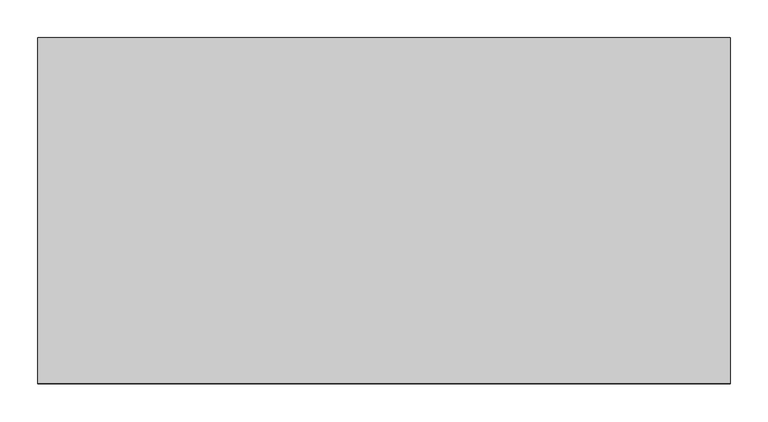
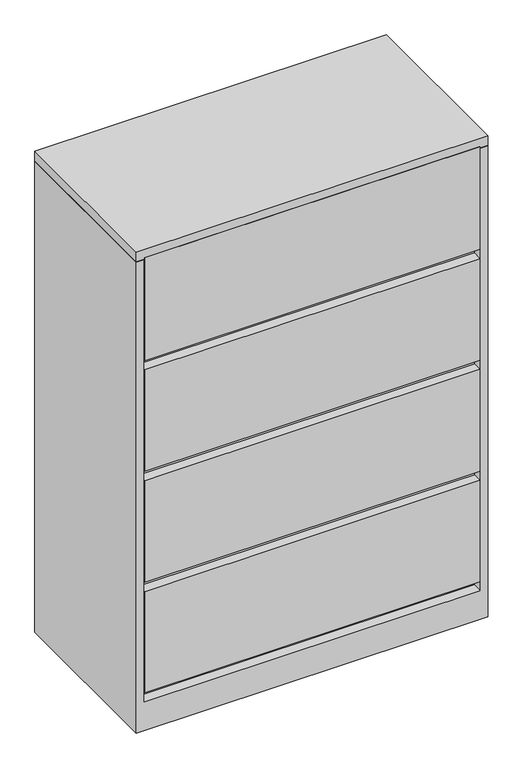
"""IFC4 building model written with IfcOpenShell, lengths in millimetres: furniture geometry, Steelcase - 900 Series - Storage - Lateral File With Roll Out Shelf - Flush Steel : 52H x 36W."""

import ifcopenshell
import ifcopenshell.guid

model = None  # the IFC model being written
_history = None  # IfcOwnerHistory: only IFC2X3 demands one
_inside = {}  # id of a spatial element -> (the spatial element, [elements in it])
_under = {}  # id of a project, library or spatial element -> (it, [spatial elements below it])
_declared = {}  # id of a project -> (the project, [libraries it declares])
_typed = {}  # id of a type object -> (the type object, [elements of that type])
_made_of = {}  # id of a material, layer set ... -> (it, [elements and type objects made of it])


def new_model(schema):
    """Start an empty IFC model of exactly this schema.

    Asked for "IFC4X3", IfcOpenShell would pick the latest addendum, in which some entities
    have other attributes; the version numbers below select the first issue.
    IFC2X3 requires an IfcOwnerHistory on every rooted entity: one is made here for all.
    """
    global model, _history
    if schema == "IFC4X3":
        model = ifcopenshell.file(schema_version=(4, 3, 0, 0))
    else:
        model = ifcopenshell.file(schema=schema)
    _inside.clear()
    _under.clear()
    _declared.clear()
    _typed.clear()
    _made_of.clear()
    _history = None
    if model.schema == "IFC2X3":
        org = make("IfcOrganization", Name="unknown")
        user = make(
            "IfcPersonAndOrganization",
            ThePerson=make("IfcPerson", FamilyName="unknown"),
            TheOrganization=org,
        )
        app = make(
            "IfcApplication",
            ApplicationDeveloper=org,
            Version="unknown",
            ApplicationFullName="unknown",
            ApplicationIdentifier="unknown",
        )
        _history = make(
            "IfcOwnerHistory",
            OwningUser=user,
            OwningApplication=app,
            ChangeAction="ADDED",
            CreationDate=0,
        )
    return model


def make(cls, **values):
    """One entity of the class cls with the attributes given. An attribute that is None is left unset."""
    return model.create_entity(
        cls, **{name: value for name, value in values.items() if value is not None}
    )


def rooted(cls, **values):
    """An entity with a GlobalId (a new one), such as an element, a storey or a relation."""
    return make(cls, GlobalId=ifcopenshell.guid.new(), OwnerHistory=_history, **values)


def si_unit(unit_type, name, prefix=None):
    """IfcSIUnit, for example si_unit("LENGTHUNIT", "METRE", prefix="MILLI")."""
    return make("IfcSIUnit", UnitType=unit_type, Prefix=prefix, Name=name)


def assignment(units):
    """IfcUnitAssignment: the units of a project."""
    return None if units is None else make("IfcUnitAssignment", Units=units)


def point(xyz):
    """IfcCartesianPoint."""
    return None if xyz is None else make("IfcCartesianPoint", Coordinates=xyz)


def direction(xyz):
    """IfcDirection."""
    return None if xyz is None else make("IfcDirection", DirectionRatios=xyz)


def frame(location, z_axis=None, x_axis=None):
    """IfcAxis2Placement3D, a coordinate frame: its origin and axes. An axis left out is left unset."""
    return make(
        "IfcAxis2Placement3D",
        Location=point(location),
        Axis=direction(z_axis),
        RefDirection=direction(x_axis),
    )


def origin():
    """The frame at (0, 0, 0) with its axes left unset."""
    return frame((0.0, 0.0, 0.0))


def place(relative_to, where):
    """IfcLocalPlacement: puts the frame where relative to a parent placement (None: the world)."""
    return make(
        "IfcLocalPlacement", PlacementRelTo=relative_to, RelativePlacement=where
    )


def context(
    kind, dimensions, precision=None, world=None, true_north=None, identifier=None
):
    """IfcGeometricRepresentationContext, for example the 3D "Model" context."""
    return make(
        "IfcGeometricRepresentationContext",
        ContextIdentifier=identifier,
        ContextType=kind,
        CoordinateSpaceDimension=dimensions,
        Precision=precision,
        WorldCoordinateSystem=world,
        TrueNorth=true_north,
    )


def project(units=None, contexts=None):
    """IfcProject with its units and contexts."""
    return rooted(
        "IfcProject",
        Name="project",
        RepresentationContexts=contexts,
        UnitsInContext=assignment(units),
    )


def spatial(cls, under=None, at=None, **own):
    """A site, building, storey or space (cls), placed at a placement, below another one or the project."""
    s = rooted(cls, ObjectPlacement=at, **own)
    if under is not None:
        _under.setdefault(under.id(), (under, []))[1].append(s)
    return s


def polyline(points):
    """IfcPolyline through the points."""
    return make("IfcPolyline", Points=[point(p) for p in points])


def outline(outer, holes=None, kind="AREA"):
    """IfcArbitraryClosedProfileDef: a profile drawn as a closed curve; with holes, ...WithVoids."""
    if holes is None:
        return make("IfcArbitraryClosedProfileDef", ProfileType=kind, OuterCurve=outer)
    return make(
        "IfcArbitraryProfileDefWithVoids",
        ProfileType=kind,
        OuterCurve=outer,
        InnerCurves=holes,
    )


def extrude(swept, where, along, depth):
    """IfcExtrudedAreaSolid: the profile swept, set in the frame where, extruded along a direction by depth."""
    return make(
        "IfcExtrudedAreaSolid",
        SweptArea=swept,
        Position=where,
        ExtrudedDirection=direction(along),
        Depth=depth,
    )


def faces_of(points, faces, orient=None, outer=None):
    """IfcFace entities. A face is a list of loops; a loop is a list of indices into points, from 0.

    orient and outer hold one flag for each loop. By default every Orientation is true, the
    first loop of a face is its IfcFaceOuterBound and the others are IfcFaceBound.
    """
    made = []
    for i, loops in enumerate(faces):
        bounds = []
        for j, loop in enumerate(loops):
            is_outer = j == 0 if outer is None else outer[i][j]
            bounds.append(
                make(
                    "IfcFaceOuterBound" if is_outer else "IfcFaceBound",
                    Bound=make("IfcPolyLoop", Polygon=[points[k] for k in loop]),
                    Orientation=True if orient is None else orient[i][j],
                )
            )
        made.append(make("IfcFace", Bounds=bounds))
    return made


def faceted_brep(points, faces, orient=None, outer=None, voids=None):
    """IfcFacetedBrep: a solid bounded by flat faces; with voids (closed shells), ...WithVoids."""
    shared = [point(p) for p in points]
    hull = make("IfcClosedShell", CfsFaces=faces_of(shared, faces, orient, outer))
    if voids is None:
        return make("IfcFacetedBrep", Outer=hull)
    return make(
        "IfcFacetedBrepWithVoids",
        Outer=hull,
        Voids=[
            make(cls, CfsFaces=faces_of(shared, fs, o, b)) for cls, fs, o, b in voids
        ],
    )


def shape(context_of_items, identifier, shape_type, items):
    """IfcShapeRepresentation: the items that make up one representation, for example the "Body"."""
    return make(
        "IfcShapeRepresentation",
        ContextOfItems=context_of_items,
        RepresentationIdentifier=identifier,
        RepresentationType=shape_type,
        Items=items,
    )


def source(mapping_origin, context_of_items, identifier, shape_type, items):
    """IfcRepresentationMap: a shape defined once, which mapped items show again and again."""
    return make(
        "IfcRepresentationMap",
        MappingOrigin=mapping_origin,
        MappedRepresentation=shape(context_of_items, identifier, shape_type, items),
    )


def transform(
    local_origin,
    x_axis=None,
    y_axis=None,
    z_axis=None,
    scale=None,
    scale2=None,
    scale3=None,
    uniform=True,
):
    """IfcCartesianTransformationOperator3D, or its non-uniform kind. x_axis, y_axis, z_axis: its Axis1, 2, 3."""
    if uniform:
        return make(
            "IfcCartesianTransformationOperator3D",
            Axis1=direction(x_axis),
            Axis2=direction(y_axis),
            LocalOrigin=point(local_origin),
            Scale=scale,
            Axis3=direction(z_axis),
        )
    return make(
        "IfcCartesianTransformationOperator3DnonUniform",
        Axis1=direction(x_axis),
        Axis2=direction(y_axis),
        LocalOrigin=point(local_origin),
        Scale=scale,
        Axis3=direction(z_axis),
        Scale2=scale2,
        Scale3=scale3,
    )


def mapped(mapping_source, mapping_target):
    """IfcMappedItem: shows the shape of a source again, moved by a transform."""
    return make(
        "IfcMappedItem", MappingSource=mapping_source, MappingTarget=mapping_target
    )


def made_of(thing, what):
    """Note that an element or type object is made of a material, layer set ...; save() writes the relation."""
    if what is not None:
        _made_of.setdefault(what.id(), (what, []))[1].append(thing)
    return thing


def element(
    cls,
    number,
    at=None,
    inside=None,
    cuts=None,
    type_object=None,
    material=None,
    context=None,
    identifier="Body",
    shape_type=None,
    held_by="IfcProductDefinitionShape",
    body=None,
    shapes=None,
    **own,
):
    """One element of the class cls, such as IfcWall. Its Tag is "e" and its number.

    at: its placement. inside: the storey or other place that contains it. cuts: it is an
    opening in that element (IfcRelVoidsElement). A single representation is given by context,
    identifier, shape_type and body (its items); several are given by shapes. held_by: the class
    of the entity that holds the representations. save() writes the other relations.
    """
    e = rooted(cls, Tag="e%d" % number, ObjectPlacement=at, **own)
    if body is not None:
        shapes = [shape(context, identifier, shape_type, body)]
    if shapes is not None:
        e.Representation = make(held_by, Representations=shapes)
    if inside is not None:
        _inside.setdefault(inside.id(), (inside, []))[1].append(e)
    if cuts is not None:
        rooted(
            "IfcRelVoidsElement", RelatingBuildingElement=cuts, RelatedOpeningElement=e
        )
    if type_object is not None:
        _typed.setdefault(type_object.id(), (type_object, []))[1].append(e)
    return made_of(e, material)


def aggregate(whole, parts):
    """IfcRelAggregates: a whole, such as a stair, and the parts it consists of."""
    return rooted("IfcRelAggregates", RelatingObject=whole, RelatedObjects=parts)


def save(model, path):
    """Write the relations noted so far, then the file.

    IfcRelAggregates (storeys below a building ...), IfcRelContainedInSpatialStructure (elements
    in a storey), IfcRelDefinesByType, IfcRelAssociatesMaterial and IfcRelDeclares: one each for
    every whole, place, type object, material and project.
    """
    for whole, parts in _under.values():
        aggregate(whole, parts)
    for where, things in _inside.values():
        rooted(
            "IfcRelContainedInSpatialStructure",
            RelatedElements=things,
            RelatingStructure=where,
        )
    for kind, things in _typed.values():
        rooted("IfcRelDefinesByType", RelatedObjects=things, RelatingType=kind)
    for what, things in _made_of.values():
        rooted("IfcRelAssociatesMaterial", RelatedObjects=things, RelatingMaterial=what)
    for by, libraries in _declared.values():
        rooted("IfcRelDeclares", RelatingContext=by, RelatedDefinitions=libraries)
    model.write(path)


def furniture_6a1b8f8d(model_context):
    return source(origin(), model_context, "Body", "SolidModel", [
        faceted_brep([(895.0960184, -25.2721219, 1293.876), (895.0960184, -457.2, 1293.876), (914.4, -457.2, 1293.876), (914.4, 0.0, 1293.876), (0.0, 0.0, 1293.876), (0.0, -457.2, 1293.876), (19.3039998, -457.2, 1293.876), (19.3039998, -25.2721219, 1293.876), (0.0, -457.2, 0.0), (0.0, 0.0, 0.0), (914.4, 0.0, 0.0), (914.4, -457.2, 0.0), (895.0960184, -25.2721219, 406.7048), (895.0960184, -431.800255, 406.7048), (895.0960184, -431.800255, 381.254), (895.0960184, -25.2721219, 381.254), (895.0960184, -25.2721219, 103.3780013), (895.0960184, -430.275847, 103.3780013), (895.0960184, -430.275847, 77.9779983), (895.0960184, -457.2, 77.9779983), (19.3039998, -457.2, 77.9779983), (19.3039998, -430.275847, 77.9779983), (19.3039998, -430.275847, 103.3780013), (19.3039998, -25.2721219, 103.3780013), (19.3039998, -25.2721219, 381.254), (19.3039998, -431.800255, 381.254), (19.3039998, -431.800255, 406.7048), (19.3039998, -25.2721219, 406.7048)], [[[0, 1, 2, 3, 4, 5, 6, 7]], [[8, 9, 10, 11]], [[1, 0, 12, 13, 14, 15, 16, 17, 18, 19]], [[2, 1, 19, 20, 6, 5, 8, 11]], [[3, 2, 11, 10]], [[4, 3, 10, 9]], [[5, 4, 9, 8]], [[7, 6, 20, 21, 22, 23, 24, 25, 26, 27]], [[0, 7, 27, 12]], [[16, 15, 24, 23]], [[18, 21, 20, 19]], [[22, 17, 16, 23]], [[21, 18, 17, 22]], [[26, 13, 12, 27]], [[13, 26, 25, 14]], [[14, 25, 24, 15]]]),
        extrude(outline(polyline([(895.0960184, -25.2721219), (895.0960184, -431.800255), (19.3039998, -431.800255), (19.3039998, -25.2721219), (895.0960184, -25.2721219)])), frame((0.0, 0.0, 686.1048), z_axis=(0.0, 0.0, 1.0), x_axis=(1.0, 0.0, 0.0)), (0.0, 0.0, 1.0), 25.4),
        extrude(outline(polyline([(893.5722015, -457.2), (20.8289612, -457.2), (20.8289612, -431.800255), (893.5722015, -431.800255), (893.5722015, -457.2)])), frame((0.0, 0.0, 1016.3048), z_axis=(0.0, 0.0, 1.0), x_axis=(1.0, 0.0, 0.0)), (0.0, 0.0, 1.0), 282.2702),
        extrude(outline(polyline([(893.5722015, -457.2), (20.8289612, -457.2), (20.8289612, -431.800255), (893.5722015, -431.800255), (893.5722015, -457.2)])), frame((0.0, 0.0, 711.5048), z_axis=(0.0, 0.0, 1.0), x_axis=(1.0, 0.0, 0.0)), (0.0, 0.0, 1.0), 279.4),
        extrude(outline(polyline([(895.0960184, -25.2721219), (895.0960184, -431.800255), (19.3039998, -431.800255), (19.3039998, -25.2721219), (895.0960184, -25.2721219)])), frame((0.0, 0.0, 990.9048), z_axis=(0.0, 0.0, 1.0), x_axis=(1.0, 0.0, 0.0)), (0.0, 0.0, 1.0), 25.4),
        faceted_brep([(914.4, 0.0, 1320.8), (0.0, 0.0, 1320.8), (0.0, -457.2, 1320.8), (914.4, -457.2, 1320.8), (914.4, 0.0, 1295.3999516), (914.4, -457.2, 1295.3999516), (0.0, -457.2, 1295.3999516), (0.0, 0.0, 1295.3999516), (895.0960184, -25.2721219, 1295.3999516), (20.8289612, -25.2721219, 1295.3999516), (20.8289612, -415.9241219, 1295.3999516), (895.0960184, -415.9241219, 1295.3999516), (895.0960184, -25.2721219, 1293.876), (895.0960184, -415.9241219, 1293.876), (20.8289612, -415.9241219, 1293.876), (20.8289612, -25.2721219, 1293.876)], [[[0, 1, 2, 3]], [[4, 5, 6, 7], [8, 9, 10, 11]], [[1, 0, 4, 7]], [[2, 1, 7, 6]], [[3, 2, 6, 5]], [[0, 3, 5, 4]], [[12, 13, 14, 15]], [[12, 15, 9, 8]], [[15, 14, 10, 9]], [[14, 13, 11, 10]], [[13, 12, 8, 11]]]),
        extrude(outline(polyline([(893.5722015, -457.2), (20.8289612, -457.2), (20.8289612, -431.800255), (893.5722015, -431.800255), (893.5722015, -457.2)])), frame((0.0, 0.0, 103.3780013), z_axis=(0.0, 0.0, 1.0), x_axis=(1.0, 0.0, 0.0)), (0.0, 0.0, 1.0), 277.8759987),
        extrude(outline(polyline([(893.5722015, -457.2), (20.8289612, -457.2), (20.8289612, -431.800255), (893.5722015, -431.800255), (893.5722015, -457.2)])), frame((0.0, 0.0, 406.7048), z_axis=(0.0, 0.0, 1.0), x_axis=(1.0, 0.0, 0.0)), (0.0, 0.0, 1.0), 279.4),
    ])


if __name__ == "__main__":
    model = new_model("IFC4")
    model_context = context("Model", 3, world=origin())
    ifc_project = project(units=[si_unit("LENGTHUNIT", "METRE", prefix="MILLI")], contexts=[model_context])
    site = spatial("IfcSite", under=ifc_project)
    building = spatial("IfcBuilding", under=site)
    placement = place(None, origin())
    furniture_shape = furniture_6a1b8f8d(model_context)
    element("IfcFurniture", 1, ObjectType="Steelcase - 900 Series - Storage - Lateral File With Roll Out Shelf - Flush Steel : 52H x 36W", at=placement, inside=building, context=model_context, shape_type="MappedRepresentation", body=[
        mapped(furniture_shape, transform((0.0, 0.0, 0.0), x_axis=(1.0, 0.0, 0.0), y_axis=(0.0, 1.0, 0.0), z_axis=(0.0, 0.0, 1.0))),
    ])
    save(model, "model.ifc")
